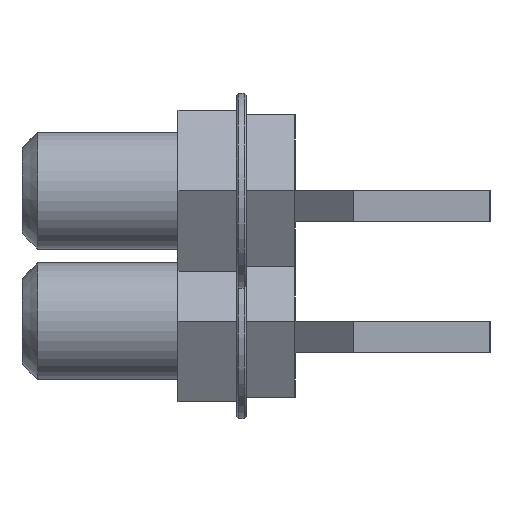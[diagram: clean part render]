
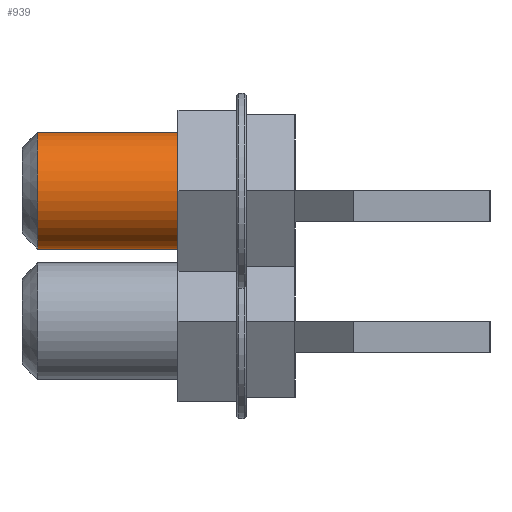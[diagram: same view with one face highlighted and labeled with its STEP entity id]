
A CAD part, left-side view. The second image highlights one B-rep face of the part: STEP entity #939.
In plain terms, the highlighted cylindrical face has radius 3 mm (diameter 6 mm), a full revolution.
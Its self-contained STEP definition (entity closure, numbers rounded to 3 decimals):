
#697=CARTESIAN_POINT('',(-63.002,-37.4,40.2));
#698=VERTEX_POINT('',#697);
#699=CARTESIAN_POINT('',(-63.002,-37.4,34.2));
#700=VERTEX_POINT('',#699);
#701=CARTESIAN_POINT('',(-63.002,-37.4,37.2));
#702=DIRECTION('',(-0.,1.,-0.));
#703=DIRECTION('',(0.,0.,-1.));
#704=AXIS2_PLACEMENT_3D('',#701,#702,#703);
#705=CIRCLE('',#704,3.);
#706=EDGE_CURVE('',#698,#700,#705,.T.);
#708=CARTESIAN_POINT('',(-63.002,-37.4,37.2));
#709=DIRECTION('',(-0.,1.,-0.));
#710=DIRECTION('',(0.,0.,-1.));
#711=AXIS2_PLACEMENT_3D('',#708,#709,#710);
#712=CIRCLE('',#711,3.);
#713=EDGE_CURVE('',#700,#698,#712,.T.);
#892=CARTESIAN_POINT('',(-63.002,-30.2,34.2));
#893=VERTEX_POINT('',#892);
#902=CARTESIAN_POINT('',(-63.002,-30.2,40.2));
#903=VERTEX_POINT('',#902);
#904=CARTESIAN_POINT('',(-63.002,-30.2,37.2));
#905=DIRECTION('',(0.,-1.,0.));
#906=DIRECTION('',(0.,0.,-1.));
#907=AXIS2_PLACEMENT_3D('',#904,#905,#906);
#908=CIRCLE('',#907,3.);
#909=EDGE_CURVE('',#903,#893,#908,.T.);
#911=CARTESIAN_POINT('',(-63.002,-30.2,37.2));
#912=DIRECTION('',(0.,-1.,0.));
#913=DIRECTION('',(0.,0.,-1.));
#914=AXIS2_PLACEMENT_3D('',#911,#912,#913);
#915=CIRCLE('',#914,3.);
#916=EDGE_CURVE('',#893,#903,#915,.T.);
#921=CARTESIAN_POINT('',(-63.002,-43.4,37.2));
#922=DIRECTION('',(0.,1.,0.));
#923=DIRECTION('',(0.,-0.,1.));
#924=AXIS2_PLACEMENT_3D('',#921,#922,#923);
#925=CYLINDRICAL_SURFACE('',#924,3.);
#926=CARTESIAN_POINT('',(-63.002,-30.2,40.2));
#927=DIRECTION('',(-0.,-1.,-0.));
#928=VECTOR('',#927,7.2);
#929=LINE('',#926,#928);
#930=EDGE_CURVE('',#903,#698,#929,.T.);
#931=ORIENTED_EDGE('',*,*,#930,.T.);
#932=ORIENTED_EDGE('',*,*,#706,.T.);
#933=ORIENTED_EDGE('',*,*,#713,.T.);
#934=ORIENTED_EDGE('',*,*,#930,.F.);
#935=ORIENTED_EDGE('',*,*,#909,.T.);
#936=ORIENTED_EDGE('',*,*,#916,.T.);
#937=EDGE_LOOP('',(#931,#932,#933,#934,#935,#936));
#938=FACE_BOUND('',#937,.T.);
#939=ADVANCED_FACE('',(#938),#925,.T.);
